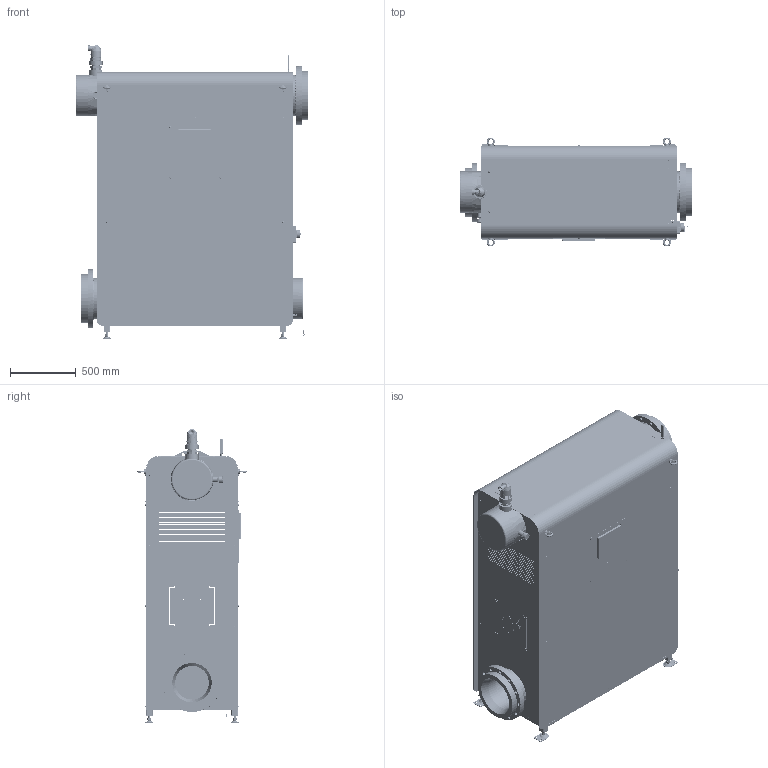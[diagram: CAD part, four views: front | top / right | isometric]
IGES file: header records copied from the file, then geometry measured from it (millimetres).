
Global section: file name: H Pro 300-400_Simplifier_1; native system: Autodesk Inventor 2024; preprocessor: unknown; author: Massimo Maselli; date: 20231108.170335; units: millimetre
Bounding box: 1773 x 830 x 2238.4 mm (x, y, z)
Volume: 119085747.5 mm3; surface area: 32704036.7 mm2
Topology: 151 solids, 151 shells, 8557 faces, 23342 edges, 15864 vertices
Faces by surface type: bspline 8557
